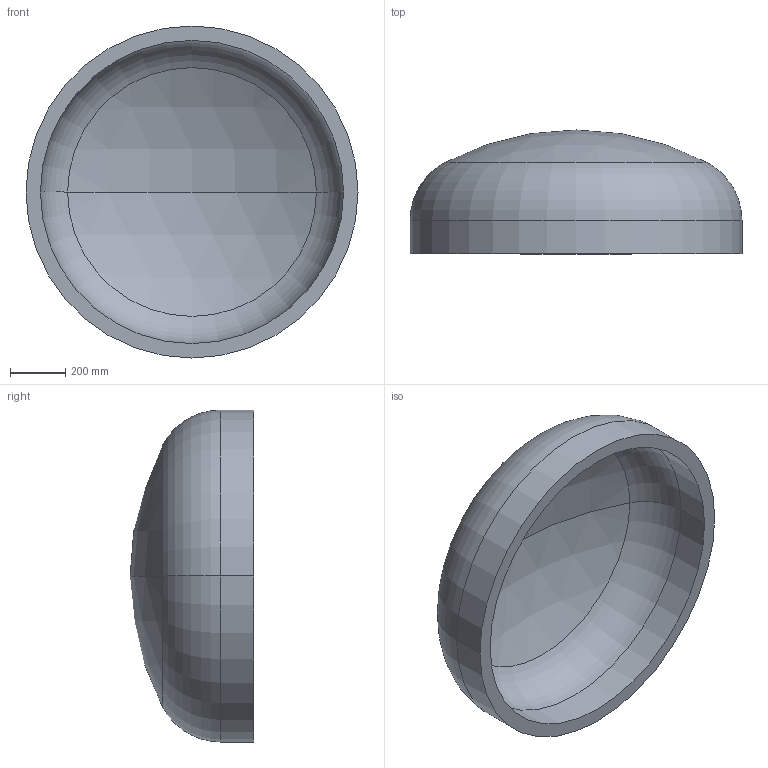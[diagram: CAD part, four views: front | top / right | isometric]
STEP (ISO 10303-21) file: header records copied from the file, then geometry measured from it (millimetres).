
FILE_DESCRIPTION (( 'STEP AP203' ), '1' );
FILE_NAME ('DIN 28013 Korbbogenform_-_Boden DIN 28013 - 1200 x 120 - I - s=52.step', '2016-07-01T09:31:19', ( '' ), ( '' ), 'SwSTEP 2.0', 'SolidWorks 2013', '' );
FILE_SCHEMA (( 'CONFIG_CONTROL_DESIGN' ));
Length unit declared in the file: millimetre
Products named in the file (1): DIN 28013 Korbbogenform_-_Boden DIN 28013 - 1200 x 120 - I - s=52
Bounding box: 1200 x 447.27 x 1200 mm (x, y, z)
Volume: 99538387.1 mm3; surface area: 4021602.3 mm2
Topology: 1 solids, 1 shells, 13 faces, 24 edges, 14 vertices
Faces by surface type: torus 4, cylinder 4, sphere 4, plane 1
Entity records: 407 total; most frequent: DIRECTION 72, CARTESIAN_POINT 52, ORIENTED_EDGE 48, AXIS2_PLACEMENT_3D 34, EDGE_CURVE 24, CIRCLE 20, VERTEX_POINT 14, EDGE_LOOP 14
